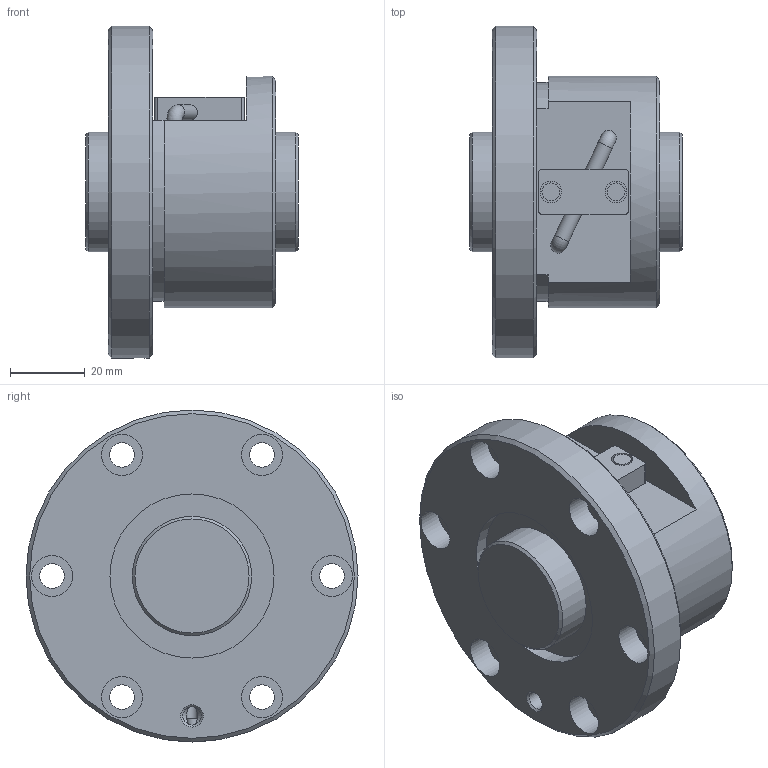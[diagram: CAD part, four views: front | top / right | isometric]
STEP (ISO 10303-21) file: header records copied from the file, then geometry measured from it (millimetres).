
FILE_DESCRIPTION(/* description */ ('STEP AP203'),/* implementation_level */ '2;1');
FILE_NAME(/* name */ 'BNF3206V-2.5RRG1+57LC0_000_rev',/* time_stamp */ '2024-08-06T07:36:37+02:00',/* author */ ('License CC BY-ND 4.0'),/* organization */ ('CADENAS'),/* preprocessor_version */ 'ST-DEVELOPER v19.3',/* originating_system */ 'PARTsolutions',/* authorisation */ ' ');
FILE_SCHEMA (('CONFIG_CONTROL_DESIGN'));
Length unit declared in the file: millimetre
Products named in the file (3): BNF3206V-2.5RRG1+57LC0_000_rev; BNF 3206-2.5RR000 Shaft; BNF 3206-2.5RR Nut
Assembly tree (2 placements, depth 2):
  BNF3206V-2.5RRG1+57LC0_000_rev
    BNF 3206-2.5RR000 Shaft
    BNF 3206-2.5RR Nut
Bounding box: 57 x 89 x 89 mm (x, y, z)
Volume: 164590.4 mm3; surface area: 36029.8 mm2
Topology: 2 solids, 2 shells, 70 faces, 152 edges, 99 vertices
Faces by surface type: cylinder 33, plane 27, cone 8, torus 2
Full cylindrical faces by diameter (mm): 3 x2, 4.131 x2, 4.8 x2, 4.917 x1, 5.8 x2, 6.6 x6, 11 x6, 32 x2, 44 x2, 62 x1, 89 x1
Entity records: 1803 total; most frequent: DIRECTION 316, CARTESIAN_POINT 313, ORIENTED_EDGE 210, AXIS2_PLACEMENT_3D 146, EDGE_LOOP 140, FACE_BOUND 140, EDGE_CURVE 105, VERTEX_POINT 89
